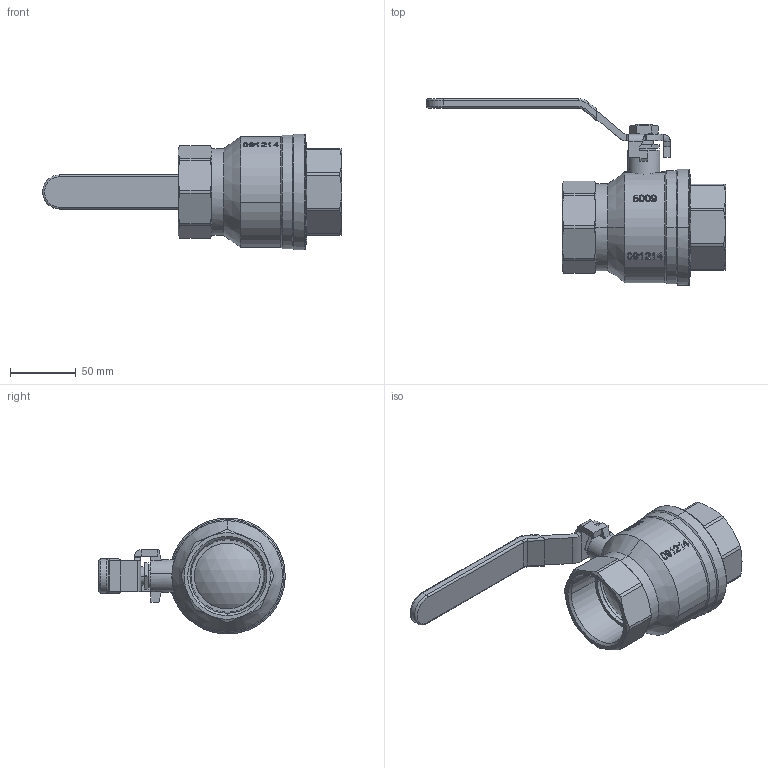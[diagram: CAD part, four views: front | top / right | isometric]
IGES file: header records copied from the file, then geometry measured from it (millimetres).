
Global section: file name: No Iges File Name specified; native system: AutoDesk Inventor R12.0; preprocessor: AutoDesk Inventor Iges Exporter R12.0; date: 20110127.150210; units: millimetre
Bounding box: 227 x 141.51 x 88 mm (x, y, z)
Volume: 559832.7 mm3; surface area: 135147.6 mm2
Topology: 7 solids, 7 shells, 1876 faces, 5025 edges, 3335 vertices
Faces by surface type: plane 908, bspline 695, cylinder 90, revolution 85, cone 64, torus 28, sphere 6
